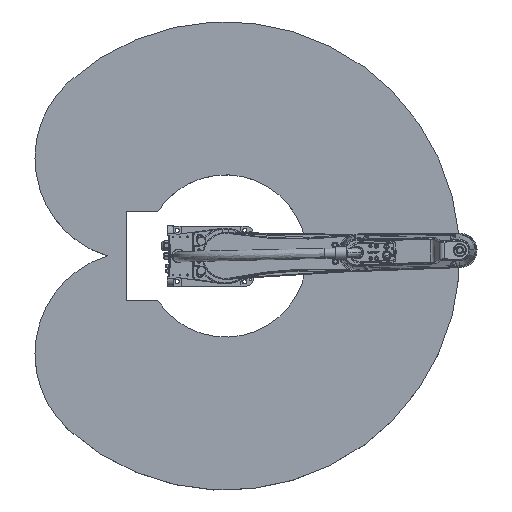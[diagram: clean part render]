
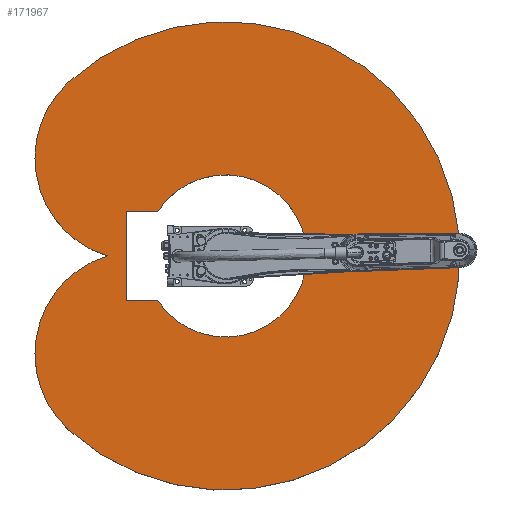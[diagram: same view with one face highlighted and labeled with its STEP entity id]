
A CAD part, top view. The second image highlights one B-rep face of the part: STEP entity #171967.
In plain terms, the highlighted planar face has unit normal (0, 0, 1) as drawn and (0, 1, 0) by its records, which use the part's own axes.
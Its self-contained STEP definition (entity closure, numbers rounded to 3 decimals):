
#4872 = VERTEX_POINT ( 'NONE', #108797 ) ;
#6784 = AXIS2_PLACEMENT_3D ( 'NONE', #86149, #56736, #174250 ) ;
#9500 = VECTOR ( 'NONE', #70048, 1000. ) ;
#10001 = CARTESIAN_POINT ( 'NONE',  ( 152.5, 188., 231.362 ) ) ;
#10902 = LINE ( 'NONE', #83708, #36482 ) ;
#11765 = EDGE_CURVE ( 'NONE', #171062, #77481, #10902, .T. ) ;
#16535 = LINE ( 'NONE', #54992, #9500 ) ;
#18372 = FACE_OUTER_BOUND ( 'NONE', #69821, .T. ) ;
#19563 = CARTESIAN_POINT ( 'NONE',  ( 0., 188., 404.387 ) ) ;
#20515 = AXIS2_PLACEMENT_3D ( 'NONE', #81861, #186268, #112585 ) ;
#22451 = ORIENTED_EDGE ( 'NONE', *, *, #34261, .F. ) ;
#24749 = ORIENTED_EDGE ( 'NONE', *, *, #147957, .T. ) ;
#27950 = AXIS2_PLACEMENT_3D ( 'NONE', #39603, #85301, #144070 ) ;
#31765 = CARTESIAN_POINT ( 'NONE',  ( 594.516, 188., 535.304 ) ) ;
#31874 = CARTESIAN_POINT ( 'NONE',  ( 0., 188., 0. ) ) ;
#34261 = EDGE_CURVE ( 'NONE', #77481, #90023, #86859, .T. ) ;
#34579 = AXIS2_PLACEMENT_3D ( 'NONE', #92090, #47024, #165845 ) ;
#36482 = VECTOR ( 'NONE', #171799, 1000. ) ;
#36507 = ORIENTED_EDGE ( 'NONE', *, *, #117867, .F. ) ;
#39603 = CARTESIAN_POINT ( 'NONE',  ( -334.415, 188., 301.109 ) ) ;
#41568 = CARTESIAN_POINT ( 'NONE',  ( -152.5, 188., 231.362 ) ) ;
#47024 = DIRECTION ( 'NONE',  ( 0., 1., 0. ) ) ;
#49172 = CIRCLE ( 'NONE', #142982, 350. ) ;
#49606 = CIRCLE ( 'NONE', #20515, 800. ) ;
#51639 = VERTEX_POINT ( 'NONE', #41568 ) ;
#52011 = ORIENTED_EDGE ( 'NONE', *, *, #71826, .F. ) ;
#54992 = CARTESIAN_POINT ( 'NONE',  ( -152.5, 188., 337.5 ) ) ;
#56736 = DIRECTION ( 'NONE',  ( 0., 1., 0. ) ) ;
#63737 = VERTEX_POINT ( 'NONE', #127302 ) ;
#64334 = ORIENTED_EDGE ( 'NONE', *, *, #139437, .T. ) ;
#67547 = EDGE_CURVE ( 'NONE', #130942, #63737, #49606, .T. ) ;
#69821 = EDGE_LOOP ( 'NONE', ( #77172, #64334, #191364, #94694, #24749 ) ) ;
#70048 = DIRECTION ( 'NONE',  ( 0., 0., 1. ) ) ;
#71826 = EDGE_CURVE ( 'NONE', #90023, #51639, #137870, .T. ) ;
#72151 = VERTEX_POINT ( 'NONE', #176579 ) ;
#72694 = EDGE_LOOP ( 'NONE', ( #126199, #36507, #52011, #22451 ) ) ;
#73815 = DIRECTION ( 'NONE',  ( 0., 0., 1. ) ) ;
#76263 = DIRECTION ( 'NONE',  ( 0., 1., 0. ) ) ;
#77172 = ORIENTED_EDGE ( 'NONE', *, *, #166089, .T. ) ;
#77481 = VERTEX_POINT ( 'NONE', #136599 ) ;
#81523 = EDGE_CURVE ( 'NONE', #63737, #4872, #111735, .T. ) ;
#81861 = CARTESIAN_POINT ( 'NONE',  ( 0., 188., 0. ) ) ;
#82173 = DIRECTION ( 'NONE',  ( 0., 0., -1. ) ) ;
#83708 = CARTESIAN_POINT ( 'NONE',  ( 152.5, 188., 337.5 ) ) ;
#85212 = DIRECTION ( 'NONE',  ( 0., 1., 0. ) ) ;
#85301 = DIRECTION ( 'NONE',  ( 0., 1., 0. ) ) ;
#86149 = CARTESIAN_POINT ( 'NONE',  ( 334.415, 188., 301.109 ) ) ;
#86859 = LINE ( 'NONE', #158504, #166241 ) ;
#90023 = VERTEX_POINT ( 'NONE', #10001 ) ;
#92090 = CARTESIAN_POINT ( 'NONE',  ( 167.208, 188., 150.554 ) ) ;
#94694 = ORIENTED_EDGE ( 'NONE', *, *, #81523, .T. ) ;
#98337 = CARTESIAN_POINT ( 'NONE',  ( 334.415, 188., 301.109 ) ) ;
#108797 = CARTESIAN_POINT ( 'NONE',  ( -334.415, 188., 651.109 ) ) ;
#111735 = CIRCLE ( 'NONE', #27950, 350. ) ;
#111949 = CIRCLE ( 'NONE', #177359, 350. ) ;
#112585 = DIRECTION ( 'NONE',  ( 0., 0., 1. ) ) ;
#117867 = EDGE_CURVE ( 'NONE', #51639, #171062, #16535, .T. ) ;
#122587 = CARTESIAN_POINT ( 'NONE',  ( -152.5, 188., 337.5 ) ) ;
#126199 = ORIENTED_EDGE ( 'NONE', *, *, #11765, .F. ) ;
#127302 = CARTESIAN_POINT ( 'NONE',  ( -594.516, 188., 535.304 ) ) ;
#130942 = VERTEX_POINT ( 'NONE', #31765 ) ;
#133829 = CARTESIAN_POINT ( 'NONE',  ( -334.415, 188., 301.109 ) ) ;
#134556 = PLANE ( 'NONE',  #34579 ) ;
#136599 = CARTESIAN_POINT ( 'NONE',  ( 152.5, 188., 337.5 ) ) ;
#137870 = CIRCLE ( 'NONE', #150848, 277.1 ) ;
#139437 = EDGE_CURVE ( 'NONE', #72151, #130942, #189026, .T. ) ;
#142982 = AXIS2_PLACEMENT_3D ( 'NONE', #98337, #85212, #158985 ) ;
#144070 = DIRECTION ( 'NONE',  ( 0., 0., 1. ) ) ;
#144446 = FACE_BOUND ( 'NONE', #72694, .T. ) ;
#147957 = EDGE_CURVE ( 'NONE', #4872, #175214, #111949, .T. ) ;
#150848 = AXIS2_PLACEMENT_3D ( 'NONE', #31874, #76263, #179378 ) ;
#158504 = CARTESIAN_POINT ( 'NONE',  ( 152.5, 188., 231.362 ) ) ;
#158985 = DIRECTION ( 'NONE',  ( 0., 0., 1. ) ) ;
#165845 = DIRECTION ( 'NONE',  ( 0., 0., 1. ) ) ;
#166089 = EDGE_CURVE ( 'NONE', #175214, #72151, #49172, .T. ) ;
#166241 = VECTOR ( 'NONE', #82173, 1000. ) ;
#171062 = VERTEX_POINT ( 'NONE', #122587 ) ;
#171799 = DIRECTION ( 'NONE',  ( 1., 0., 0. ) ) ;
#171967 = ADVANCED_FACE ( 'NONE', ( #144446, #18372 ), #134556, .T. ) ;
#174250 = DIRECTION ( 'NONE',  ( 0., 0., 1. ) ) ;
#175214 = VERTEX_POINT ( 'NONE', #19563 ) ;
#176579 = CARTESIAN_POINT ( 'NONE',  ( 334.415, 188., 651.109 ) ) ;
#177359 = AXIS2_PLACEMENT_3D ( 'NONE', #133829, #177557, #73815 ) ;
#177557 = DIRECTION ( 'NONE',  ( 0., 1., 0. ) ) ;
#179378 = DIRECTION ( 'NONE',  ( 0., 0., -1. ) ) ;
#186268 = DIRECTION ( 'NONE',  ( 0., 1., 0. ) ) ;
#189026 = CIRCLE ( 'NONE', #6784, 350. ) ;
#191364 = ORIENTED_EDGE ( 'NONE', *, *, #67547, .T. ) ;
